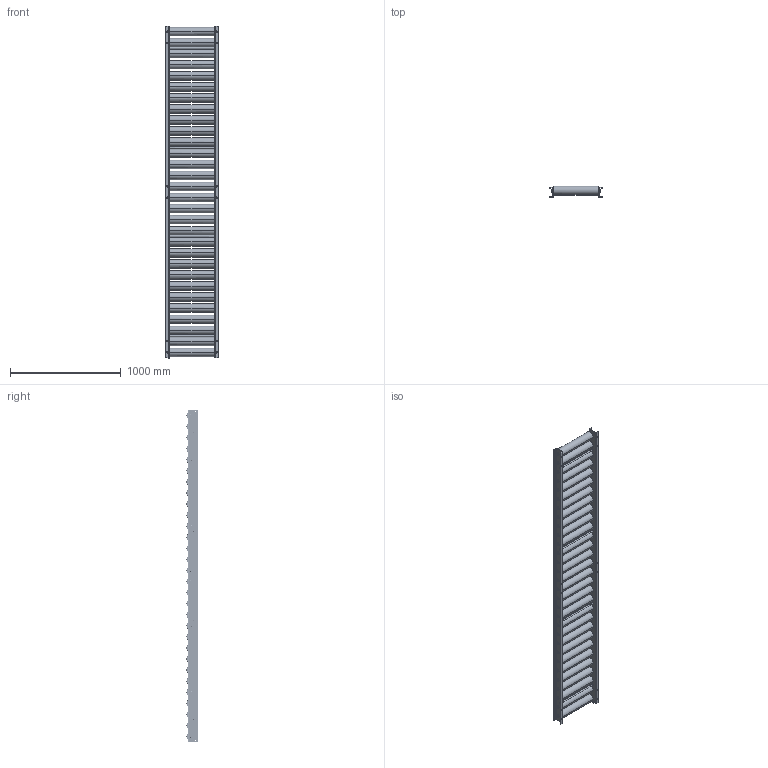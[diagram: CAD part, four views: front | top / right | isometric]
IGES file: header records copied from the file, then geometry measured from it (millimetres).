
Start section: 3D InterOp IGES (Version 21 0 2), Spatial Corp. Copyright (c) 1999-2007.
Global section: file name: R-7642SB-01.igs; native system: Spatial Corp.; preprocessor: 3D InterOp GENERIC/IGES 3.0; author: Noname; organization: Noname; date: 20121212.115442; units: millimetre
Bounding box: 475 x 100.15 x 3000 mm (x, y, z)
Surface area: 5045824.2 mm2 (no closed solid volume)
Topology: 0 solids, 0 shells, 1342 faces, 8768 edges, 8752 vertices
Faces by surface type: bspline 1342
